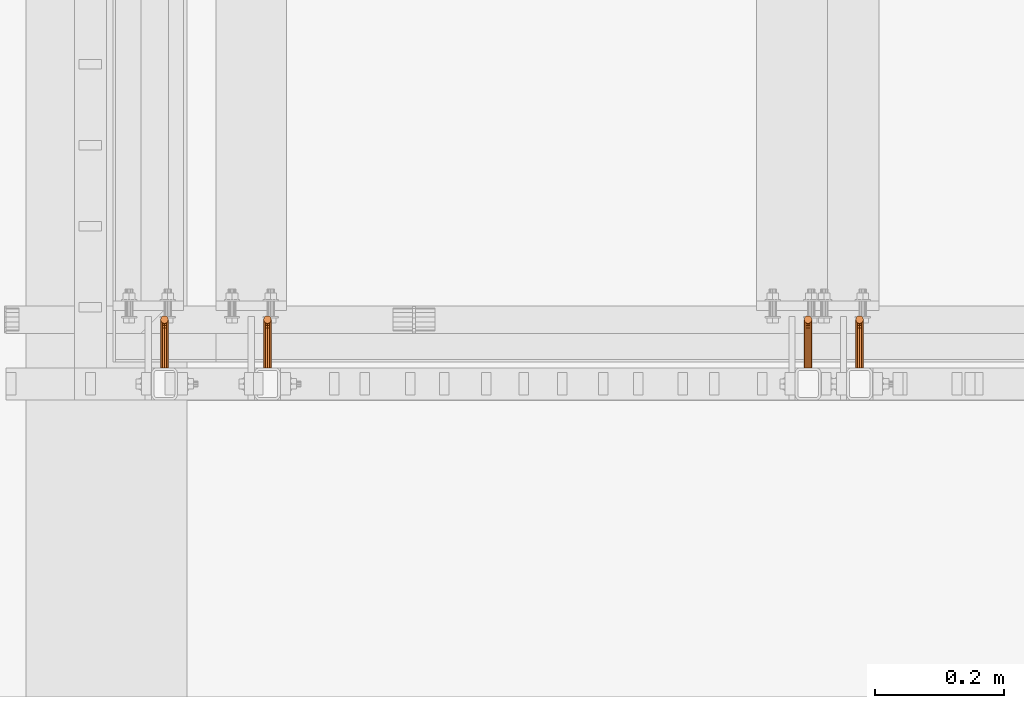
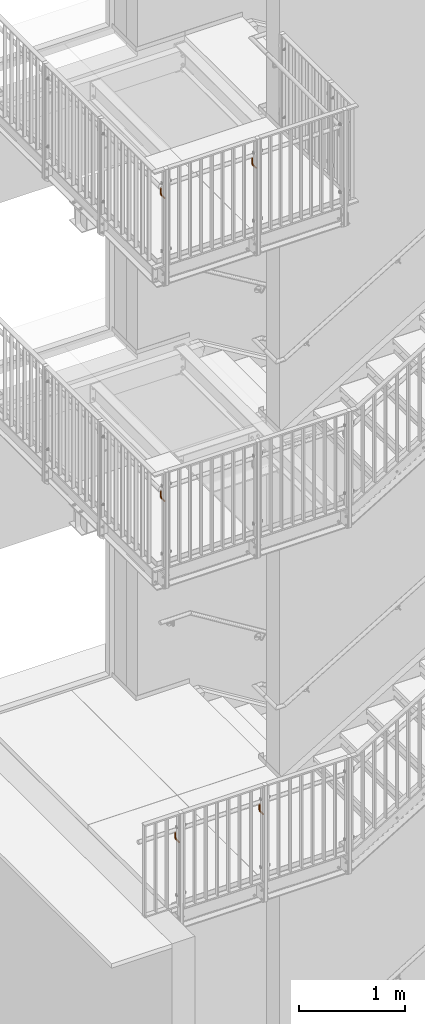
# One storey, part 370 of 410: 5 proxies.
"""IFC2X3 building model written with IfcOpenShell, lengths in millimetres."""

from ifc_helpers import new_model, entity, si_unit, converted_unit, origin_with_axes, place, context, project, spatial, faceted_brep, element, save


model = new_model("IFC2X3")

# Units and contexts
model_context = context("Model", 3, precision=1e-09, world=origin_with_axes())
ifc_project = project(units=[si_unit("LENGTHUNIT", "METRE", prefix="MILLI"), si_unit("AREAUNIT", "SQUARE_METRE"), si_unit("VOLUMEUNIT", "CUBIC_METRE"), converted_unit("PLANEANGLEUNIT", "DEGREE", entity("IfcPlaneAngleMeasure", 0.01745329), si_unit("PLANEANGLEUNIT", "RADIAN"), dimensions=[0, 0, 0, 0, 0, 0, 0])], contexts=[model_context])

# Site, building, storey
site_placement = place(None, origin_with_axes())
site = spatial("IfcSite", under=ifc_project, at=site_placement, Name="mKR Teilneubau & Sanierung BA1 - Ostfildern", CompositionType="ELEMENT")
building_placement = place(site_placement, origin_with_axes())
building = spatial("IfcBuilding", under=site, at=building_placement, Name="Struktur 1", CompositionType="ELEMENT")
storey_placement = place(building_placement, origin_with_axes())
storey = spatial("IfcBuildingStorey", under=building, at=storey_placement, Name="Default Storey", CompositionType="ELEMENT", Elevation=0.0)

# Proxies
proxy_1_placement = place(None, origin_with_axes())
element("IfcBuildingElementProxy", 1, at=proxy_1_placement, inside=storey, ObjectType="-", context=model_context, shape_type="Brep", body=[
    faceted_brep([(-3784.99853167, 15487.999999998, 4738.6), (-3784.99853167, 15430.999999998, 4738.6), (-3781.99853167, 15430.999999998, 4737.796152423), (-3781.99853167, 15487.999999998, 4737.796152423), (-3790.194684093, 15430.999999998, 4729.6), (-3787.99853167, 15430.999999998, 4727.403847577), (-3784.99853167, 15430.999999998, 4726.6), (-3781.99853167, 15430.999999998, 4727.403847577), (-3779.802379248, 15430.999999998, 4729.6), (-3778.99853167, 15430.999999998, 4732.6), (-3779.802379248, 15430.999999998, 4735.6), (-3787.99853167, 15430.999999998, 4737.796152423), (-3790.194684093, 15430.999999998, 4735.6), (-3790.99853167, 15430.999999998, 4732.6), (-3787.99853167, 15487.999999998, 4737.796152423), (-3781.99853167, 15492.899820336, 4738.770787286), (-3784.99853167, 15492.592201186, 4739.51344561), (-3779.802379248, 15487.999999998, 4735.6), (-3787.99853167, 15492.899820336, 4738.770787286), (-3784.99853167, 15496.485281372, 4742.114718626), (-3787.99853167, 15497.053687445, 4741.546312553), (-3781.99853167, 15497.053687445, 4741.546312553), (-3779.802379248, 15493.740251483, 4736.741807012), (-3790.194684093, 15487.999999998, 4735.6), (-3784.99853167, 15499.086554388, 4746.007798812), (-3787.99853167, 15499.829212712, 4745.700179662), (-3787.99853167, 15500.803847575, 4750.6), (-3787.99853167, 15500.803847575, 4807.6), (-3790.194684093, 15502.999999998, 4807.6), (-3790.194684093, 15502.999999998, 4750.6), (-3784.99853167, 15499.999999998, 4750.6), (-3784.99853167, 15499.999999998, 4807.6), (-3778.99853167, 15487.999999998, 4732.6), (-3790.194684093, 15501.858192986, 4744.859748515), (-3790.194684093, 15493.740251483, 4736.741807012), (-3790.194684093, 15498.606601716, 4739.993398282), (-3779.802379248, 15508.999999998, 4807.6), (-3781.99853167, 15511.196152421, 4807.6), (-3784.99853167, 15511.999999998, 4807.6), (-3787.99853167, 15511.196152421, 4807.6), (-3790.194684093, 15508.999999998, 4807.6), (-3790.99853167, 15505.999999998, 4807.6), (-3781.99853167, 15500.803847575, 4807.6), (-3779.802379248, 15502.999999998, 4807.6), (-3778.99853167, 15505.999999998, 4807.6), (-3781.99853167, 15499.829212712, 4745.700179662), (-3778.99853167, 15494.888301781, 4733.970168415), (-3779.802379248, 15498.606601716, 4739.993398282), (-3790.99853167, 15487.999999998, 4732.6), (-3790.99853167, 15505.999999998, 4750.6), (-3781.99853167, 15500.803847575, 4750.6), (-3779.802379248, 15487.999999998, 4729.6), (-3790.99853167, 15504.629831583, 4743.711698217), (-3790.99853167, 15494.888301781, 4733.970168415), (-3790.99853167, 15500.727922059, 4737.872077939), (-3779.802379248, 15501.858192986, 4744.859748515), (-3779.802379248, 15496.036352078, 4731.198529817), (-3778.99853167, 15500.727922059, 4737.872077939), (-3781.99853167, 15487.999999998, 4727.403847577), (-3784.99853167, 15487.999999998, 4726.6), (-3787.99853167, 15487.999999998, 4727.403847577), (-3790.194684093, 15487.999999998, 4729.6), (-3790.194684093, 15508.999999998, 4750.6), (-3779.802379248, 15502.999999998, 4750.6), (-3790.194684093, 15507.401470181, 4742.56364792), (-3790.194684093, 15496.036352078, 4731.198529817), (-3790.194684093, 15502.849242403, 4735.750757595), (-3778.99853167, 15504.629831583, 4743.711698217), (-3781.99853167, 15496.876783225, 4729.169549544), (-3779.802379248, 15502.849242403, 4735.750757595), (-3784.99853167, 15497.184402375, 4728.42689122), (-3787.99853167, 15496.876783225, 4729.169549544), (-3787.99853167, 15511.196152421, 4750.6), (-3778.99853167, 15505.999999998, 4750.6), (-3787.99853167, 15509.430450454, 4741.723216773), (-3787.99853167, 15504.402156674, 4734.197843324), (-3779.802379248, 15507.401470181, 4742.56364792), (-3781.99853167, 15504.402156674, 4734.197843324), (-3784.99853167, 15511.999999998, 4750.6), (-3784.99853167, 15504.970562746, 4733.629437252), (-3779.802379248, 15508.999999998, 4750.6), (-3784.99853167, 15510.173108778, 4741.415597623), (-3781.99853167, 15509.430450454, 4741.723216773), (-3781.99853167, 15511.196152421, 4750.6)], [[[0, 1, 2, 3]], [[4, 5, 6, 7, 8, 9, 10, 2, 1, 11, 12, 13]], [[1, 0, 14, 11]], [[0, 3, 15, 16]], [[3, 2, 10, 17]], [[16, 18, 14, 0]], [[19, 20, 18, 16]], [[16, 15, 21, 19]], [[3, 17, 22, 15]], [[11, 14, 23, 12]], [[20, 19, 24, 25]], [[26, 27, 28, 29]], [[27, 26, 30, 31]], [[17, 10, 9, 32]], [[26, 29, 33, 25]], [[18, 34, 23, 14]], [[20, 35, 34, 18]], [[25, 33, 35, 20]], [[36, 37, 38, 39, 40, 41, 28, 27, 31, 42, 43, 44]], [[25, 24, 30, 26]], [[19, 21, 45, 24]], [[17, 32, 46, 22]], [[15, 22, 47, 21]], [[12, 23, 48, 13]], [[29, 28, 41, 49]], [[31, 30, 50, 42]], [[32, 9, 8, 51]], [[29, 49, 52, 33]], [[34, 53, 48, 23]], [[35, 54, 53, 34]], [[33, 52, 54, 35]], [[24, 45, 50, 30]], [[21, 47, 55, 45]], [[32, 51, 56, 46]], [[22, 46, 57, 47]], [[7, 58, 51, 8]], [[6, 59, 58, 7]], [[5, 60, 59, 6]], [[4, 61, 60, 5]], [[13, 48, 61, 4]], [[49, 41, 40, 62]], [[42, 50, 63, 43]], [[49, 62, 64, 52]], [[53, 65, 61, 48]], [[54, 66, 65, 53]], [[52, 64, 66, 54]], [[45, 55, 63, 50]], [[47, 57, 67, 55]], [[51, 58, 68, 56]], [[46, 56, 69, 57]], [[58, 59, 70, 68]], [[59, 60, 71, 70]], [[60, 61, 65, 71]], [[62, 40, 39, 72]], [[43, 63, 73, 44]], [[62, 72, 74, 64]], [[66, 75, 71, 65]], [[64, 74, 75, 66]], [[55, 67, 73, 63]], [[57, 69, 76, 67]], [[56, 68, 77, 69]], [[72, 39, 38, 78]], [[68, 70, 79, 77]], [[70, 71, 75, 79]], [[44, 73, 80, 36]], [[72, 78, 81, 74]], [[74, 81, 79, 75]], [[67, 76, 80, 73]], [[69, 77, 82, 76]], [[78, 38, 37, 83]], [[77, 79, 81, 82]], [[36, 80, 83, 37]], [[78, 83, 82, 81]], [[76, 82, 83, 80]]]),
])
proxy_2_placement = place(None, origin_with_axes())
element("IfcBuildingElementProxy", 2, at=proxy_2_placement, inside=storey, ObjectType="-", context=model_context, shape_type="Brep", body=[
    faceted_brep([(-2704.99853167, 15487.999999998, 738.6), (-2704.99853167, 15430.999999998, 738.6), (-2701.99853167, 15430.999999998, 737.796152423), (-2701.99853167, 15487.999999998, 737.796152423), (-2710.194684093, 15430.999999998, 729.6), (-2707.99853167, 15430.999999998, 727.403847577), (-2704.99853167, 15430.999999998, 726.6), (-2701.99853167, 15430.999999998, 727.403847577), (-2699.802379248, 15430.999999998, 729.6), (-2698.99853167, 15430.999999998, 732.6), (-2699.802379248, 15430.999999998, 735.6), (-2707.99853167, 15430.999999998, 737.796152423), (-2710.194684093, 15430.999999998, 735.6), (-2710.99853167, 15430.999999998, 732.6), (-2707.99853167, 15487.999999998, 737.796152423), (-2701.99853167, 15492.899820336, 738.770787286), (-2704.99853167, 15492.592201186, 739.51344561), (-2699.802379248, 15487.999999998, 735.6), (-2707.99853167, 15492.899820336, 738.770787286), (-2704.99853167, 15496.485281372, 742.114718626), (-2707.99853167, 15497.053687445, 741.546312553), (-2701.99853167, 15497.053687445, 741.546312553), (-2699.802379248, 15493.740251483, 736.741807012), (-2710.194684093, 15487.999999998, 735.6), (-2704.99853167, 15499.086554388, 746.007798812), (-2707.99853167, 15499.829212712, 745.700179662), (-2707.99853167, 15500.803847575, 750.6), (-2707.99853167, 15500.803847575, 807.6), (-2710.194684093, 15502.999999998, 807.6), (-2710.194684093, 15502.999999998, 750.6), (-2704.99853167, 15499.999999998, 750.6), (-2704.99853167, 15499.999999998, 807.6), (-2698.99853167, 15487.999999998, 732.6), (-2710.194684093, 15501.858192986, 744.859748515), (-2710.194684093, 15493.740251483, 736.741807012), (-2710.194684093, 15498.606601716, 739.993398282), (-2699.802379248, 15508.999999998, 807.6), (-2701.99853167, 15511.196152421, 807.6), (-2704.99853167, 15511.999999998, 807.6), (-2707.99853167, 15511.196152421, 807.6), (-2710.194684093, 15508.999999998, 807.6), (-2710.99853167, 15505.999999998, 807.6), (-2701.99853167, 15500.803847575, 807.6), (-2699.802379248, 15502.999999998, 807.6), (-2698.99853167, 15505.999999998, 807.6), (-2701.99853167, 15499.829212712, 745.700179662), (-2698.99853167, 15494.888301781, 733.970168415), (-2699.802379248, 15498.606601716, 739.993398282), (-2710.99853167, 15487.999999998, 732.6), (-2710.99853167, 15505.999999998, 750.6), (-2701.99853167, 15500.803847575, 750.6), (-2699.802379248, 15487.999999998, 729.6), (-2710.99853167, 15504.629831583, 743.711698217), (-2710.99853167, 15494.888301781, 733.970168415), (-2710.99853167, 15500.727922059, 737.872077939), (-2699.802379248, 15501.858192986, 744.859748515), (-2699.802379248, 15496.036352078, 731.198529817), (-2698.99853167, 15500.727922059, 737.872077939), (-2701.99853167, 15487.999999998, 727.403847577), (-2704.99853167, 15487.999999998, 726.6), (-2707.99853167, 15487.999999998, 727.403847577), (-2710.194684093, 15487.999999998, 729.6), (-2710.194684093, 15508.999999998, 750.6), (-2699.802379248, 15502.999999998, 750.6), (-2710.194684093, 15507.401470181, 742.56364792), (-2710.194684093, 15496.036352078, 731.198529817), (-2710.194684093, 15502.849242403, 735.750757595), (-2698.99853167, 15504.629831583, 743.711698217), (-2701.99853167, 15496.876783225, 729.169549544), (-2699.802379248, 15502.849242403, 735.750757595), (-2704.99853167, 15497.184402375, 728.42689122), (-2707.99853167, 15496.876783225, 729.169549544), (-2707.99853167, 15511.196152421, 750.6), (-2698.99853167, 15505.999999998, 750.6), (-2707.99853167, 15509.430450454, 741.723216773), (-2707.99853167, 15504.402156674, 734.197843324), (-2699.802379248, 15507.401470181, 742.56364792), (-2701.99853167, 15504.402156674, 734.197843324), (-2704.99853167, 15511.999999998, 750.6), (-2704.99853167, 15504.970562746, 733.629437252), (-2699.802379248, 15508.999999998, 750.6), (-2704.99853167, 15510.173108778, 741.415597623), (-2701.99853167, 15509.430450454, 741.723216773), (-2701.99853167, 15511.196152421, 750.6)], [[[0, 1, 2, 3]], [[4, 5, 6, 7, 8, 9, 10, 2, 1, 11, 12, 13]], [[1, 0, 14, 11]], [[0, 3, 15, 16]], [[3, 2, 10, 17]], [[16, 18, 14, 0]], [[19, 20, 18, 16]], [[16, 15, 21, 19]], [[3, 17, 22, 15]], [[11, 14, 23, 12]], [[20, 19, 24, 25]], [[26, 27, 28, 29]], [[27, 26, 30, 31]], [[17, 10, 9, 32]], [[26, 29, 33, 25]], [[18, 34, 23, 14]], [[20, 35, 34, 18]], [[25, 33, 35, 20]], [[36, 37, 38, 39, 40, 41, 28, 27, 31, 42, 43, 44]], [[25, 24, 30, 26]], [[19, 21, 45, 24]], [[17, 32, 46, 22]], [[15, 22, 47, 21]], [[12, 23, 48, 13]], [[29, 28, 41, 49]], [[31, 30, 50, 42]], [[32, 9, 8, 51]], [[29, 49, 52, 33]], [[34, 53, 48, 23]], [[35, 54, 53, 34]], [[33, 52, 54, 35]], [[24, 45, 50, 30]], [[21, 47, 55, 45]], [[32, 51, 56, 46]], [[22, 46, 57, 47]], [[7, 58, 51, 8]], [[6, 59, 58, 7]], [[5, 60, 59, 6]], [[4, 61, 60, 5]], [[13, 48, 61, 4]], [[49, 41, 40, 62]], [[42, 50, 63, 43]], [[49, 62, 64, 52]], [[53, 65, 61, 48]], [[54, 66, 65, 53]], [[52, 64, 66, 54]], [[45, 55, 63, 50]], [[47, 57, 67, 55]], [[51, 58, 68, 56]], [[46, 56, 69, 57]], [[58, 59, 70, 68]], [[59, 60, 71, 70]], [[60, 61, 65, 71]], [[62, 40, 39, 72]], [[43, 63, 73, 44]], [[62, 72, 74, 64]], [[66, 75, 71, 65]], [[64, 74, 75, 66]], [[55, 67, 73, 63]], [[57, 69, 76, 67]], [[56, 68, 77, 69]], [[72, 39, 38, 78]], [[68, 70, 79, 77]], [[70, 71, 75, 79]], [[44, 73, 80, 36]], [[72, 78, 81, 74]], [[74, 81, 79, 75]], [[67, 76, 80, 73]], [[69, 77, 82, 76]], [[78, 38, 37, 83]], [[77, 79, 81, 82]], [[36, 80, 83, 37]], [[78, 83, 82, 81]], [[76, 82, 83, 80]]]),
])
proxy_3_placement = place(None, origin_with_axes())
element("IfcBuildingElementProxy", 3, at=proxy_3_placement, inside=storey, ObjectType="-", context=model_context, shape_type="Brep", body=[
    faceted_brep([(-3624.99853167, 15487.999999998, 738.6), (-3624.99853167, 15430.999999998, 738.6), (-3621.99853167, 15430.999999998, 737.796152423), (-3621.99853167, 15487.999999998, 737.796152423), (-3630.194684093, 15430.999999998, 729.6), (-3627.99853167, 15430.999999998, 727.403847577), (-3624.99853167, 15430.999999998, 726.6), (-3621.99853167, 15430.999999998, 727.403847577), (-3619.802379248, 15430.999999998, 729.6), (-3618.99853167, 15430.999999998, 732.6), (-3619.802379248, 15430.999999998, 735.6), (-3627.99853167, 15430.999999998, 737.796152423), (-3630.194684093, 15430.999999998, 735.6), (-3630.99853167, 15430.999999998, 732.6), (-3627.99853167, 15487.999999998, 737.796152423), (-3621.99853167, 15492.899820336, 738.770787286), (-3624.99853167, 15492.592201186, 739.51344561), (-3619.802379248, 15487.999999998, 735.6), (-3627.99853167, 15492.899820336, 738.770787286), (-3624.99853167, 15496.485281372, 742.114718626), (-3627.99853167, 15497.053687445, 741.546312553), (-3621.99853167, 15497.053687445, 741.546312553), (-3619.802379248, 15493.740251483, 736.741807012), (-3630.194684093, 15487.999999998, 735.6), (-3624.99853167, 15499.086554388, 746.007798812), (-3627.99853167, 15499.829212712, 745.700179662), (-3627.99853167, 15500.803847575, 750.6), (-3627.99853167, 15500.803847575, 807.6), (-3630.194684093, 15502.999999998, 807.6), (-3630.194684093, 15502.999999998, 750.6), (-3624.99853167, 15499.999999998, 750.6), (-3624.99853167, 15499.999999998, 807.6), (-3618.99853167, 15487.999999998, 732.6), (-3630.194684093, 15501.858192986, 744.859748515), (-3630.194684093, 15493.740251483, 736.741807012), (-3630.194684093, 15498.606601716, 739.993398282), (-3619.802379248, 15508.999999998, 807.6), (-3621.99853167, 15511.196152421, 807.6), (-3624.99853167, 15511.999999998, 807.6), (-3627.99853167, 15511.196152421, 807.6), (-3630.194684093, 15508.999999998, 807.6), (-3630.99853167, 15505.999999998, 807.6), (-3621.99853167, 15500.803847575, 807.6), (-3619.802379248, 15502.999999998, 807.6), (-3618.99853167, 15505.999999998, 807.6), (-3621.99853167, 15499.829212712, 745.700179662), (-3618.99853167, 15494.888301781, 733.970168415), (-3619.802379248, 15498.606601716, 739.993398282), (-3630.99853167, 15487.999999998, 732.6), (-3630.99853167, 15505.999999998, 750.6), (-3621.99853167, 15500.803847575, 750.6), (-3619.802379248, 15487.999999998, 729.6), (-3630.99853167, 15504.629831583, 743.711698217), (-3630.99853167, 15494.888301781, 733.970168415), (-3630.99853167, 15500.727922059, 737.872077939), (-3619.802379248, 15501.858192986, 744.859748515), (-3619.802379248, 15496.036352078, 731.198529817), (-3618.99853167, 15500.727922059, 737.872077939), (-3621.99853167, 15487.999999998, 727.403847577), (-3624.99853167, 15487.999999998, 726.6), (-3627.99853167, 15487.999999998, 727.403847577), (-3630.194684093, 15487.999999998, 729.6), (-3630.194684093, 15508.999999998, 750.6), (-3619.802379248, 15502.999999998, 750.6), (-3630.194684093, 15507.401470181, 742.56364792), (-3630.194684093, 15496.036352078, 731.198529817), (-3630.194684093, 15502.849242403, 735.750757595), (-3618.99853167, 15504.629831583, 743.711698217), (-3621.99853167, 15496.876783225, 729.169549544), (-3619.802379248, 15502.849242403, 735.750757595), (-3624.99853167, 15497.184402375, 728.42689122), (-3627.99853167, 15496.876783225, 729.169549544), (-3627.99853167, 15511.196152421, 750.6), (-3618.99853167, 15505.999999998, 750.6), (-3627.99853167, 15509.430450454, 741.723216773), (-3627.99853167, 15504.402156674, 734.197843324), (-3619.802379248, 15507.401470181, 742.56364792), (-3621.99853167, 15504.402156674, 734.197843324), (-3624.99853167, 15511.999999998, 750.6), (-3624.99853167, 15504.970562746, 733.629437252), (-3619.802379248, 15508.999999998, 750.6), (-3624.99853167, 15510.173108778, 741.415597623), (-3621.99853167, 15509.430450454, 741.723216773), (-3621.99853167, 15511.196152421, 750.6)], [[[0, 1, 2, 3]], [[4, 5, 6, 7, 8, 9, 10, 2, 1, 11, 12, 13]], [[1, 0, 14, 11]], [[0, 3, 15, 16]], [[3, 2, 10, 17]], [[16, 18, 14, 0]], [[19, 20, 18, 16]], [[16, 15, 21, 19]], [[3, 17, 22, 15]], [[11, 14, 23, 12]], [[20, 19, 24, 25]], [[26, 27, 28, 29]], [[27, 26, 30, 31]], [[17, 10, 9, 32]], [[26, 29, 33, 25]], [[18, 34, 23, 14]], [[20, 35, 34, 18]], [[25, 33, 35, 20]], [[36, 37, 38, 39, 40, 41, 28, 27, 31, 42, 43, 44]], [[25, 24, 30, 26]], [[19, 21, 45, 24]], [[17, 32, 46, 22]], [[15, 22, 47, 21]], [[12, 23, 48, 13]], [[29, 28, 41, 49]], [[31, 30, 50, 42]], [[32, 9, 8, 51]], [[29, 49, 52, 33]], [[34, 53, 48, 23]], [[35, 54, 53, 34]], [[33, 52, 54, 35]], [[24, 45, 50, 30]], [[21, 47, 55, 45]], [[32, 51, 56, 46]], [[22, 46, 57, 47]], [[7, 58, 51, 8]], [[6, 59, 58, 7]], [[5, 60, 59, 6]], [[4, 61, 60, 5]], [[13, 48, 61, 4]], [[49, 41, 40, 62]], [[42, 50, 63, 43]], [[49, 62, 64, 52]], [[53, 65, 61, 48]], [[54, 66, 65, 53]], [[52, 64, 66, 54]], [[45, 55, 63, 50]], [[47, 57, 67, 55]], [[51, 58, 68, 56]], [[46, 56, 69, 57]], [[58, 59, 70, 68]], [[59, 60, 71, 70]], [[60, 61, 65, 71]], [[62, 40, 39, 72]], [[43, 63, 73, 44]], [[62, 72, 74, 64]], [[66, 75, 71, 65]], [[64, 74, 75, 66]], [[55, 67, 73, 63]], [[57, 69, 76, 67]], [[56, 68, 77, 69]], [[72, 39, 38, 78]], [[68, 70, 79, 77]], [[70, 71, 75, 79]], [[44, 73, 80, 36]], [[72, 78, 81, 74]], [[74, 81, 79, 75]], [[67, 76, 80, 73]], [[69, 77, 82, 76]], [[78, 38, 37, 83]], [[77, 79, 81, 82]], [[36, 80, 83, 37]], [[78, 83, 82, 81]], [[76, 82, 83, 80]]]),
])
proxy_4_placement = place(None, origin_with_axes())
element("IfcBuildingElementProxy", 4, at=proxy_4_placement, inside=storey, ObjectType="-", context=model_context, shape_type="Brep", body=[
    faceted_brep([(-2784.99853167, 15487.999999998, 8238.6), (-2784.99853167, 15430.999999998, 8238.6), (-2781.99853167, 15430.999999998, 8237.796152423), (-2781.99853167, 15487.999999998, 8237.796152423), (-2790.194684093, 15430.999999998, 8229.6), (-2787.99853167, 15430.999999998, 8227.403847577), (-2784.99853167, 15430.999999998, 8226.6), (-2781.99853167, 15430.999999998, 8227.403847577), (-2779.802379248, 15430.999999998, 8229.6), (-2778.99853167, 15430.999999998, 8232.6), (-2779.802379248, 15430.999999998, 8235.6), (-2787.99853167, 15430.999999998, 8237.796152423), (-2790.194684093, 15430.999999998, 8235.6), (-2790.99853167, 15430.999999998, 8232.6), (-2787.99853167, 15487.999999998, 8237.796152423), (-2781.99853167, 15492.899820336, 8238.770787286), (-2784.99853167, 15492.592201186, 8239.51344561), (-2779.802379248, 15487.999999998, 8235.6), (-2787.99853167, 15492.899820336, 8238.770787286), (-2784.99853167, 15496.485281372, 8242.114718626), (-2787.99853167, 15497.053687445, 8241.546312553), (-2781.99853167, 15497.053687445, 8241.546312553), (-2779.802379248, 15493.740251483, 8236.741807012), (-2790.194684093, 15487.999999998, 8235.6), (-2784.99853167, 15499.086554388, 8246.007798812), (-2787.99853167, 15499.829212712, 8245.700179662), (-2787.99853167, 15500.803847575, 8250.6), (-2787.99853167, 15500.803847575, 8307.6), (-2790.194684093, 15502.999999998, 8307.6), (-2790.194684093, 15502.999999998, 8250.6), (-2784.99853167, 15499.999999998, 8250.6), (-2784.99853167, 15499.999999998, 8307.6), (-2778.99853167, 15487.999999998, 8232.6), (-2790.194684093, 15501.858192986, 8244.859748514), (-2790.194684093, 15493.740251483, 8236.741807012), (-2790.194684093, 15498.606601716, 8239.993398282), (-2779.802379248, 15508.999999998, 8307.6), (-2781.99853167, 15511.196152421, 8307.6), (-2784.99853167, 15511.999999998, 8307.6), (-2787.99853167, 15511.196152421, 8307.6), (-2790.194684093, 15508.999999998, 8307.6), (-2790.99853167, 15505.999999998, 8307.6), (-2781.99853167, 15500.803847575, 8307.6), (-2779.802379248, 15502.999999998, 8307.6), (-2778.99853167, 15505.999999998, 8307.6), (-2781.99853167, 15499.829212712, 8245.700179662), (-2778.99853167, 15494.888301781, 8233.970168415), (-2779.802379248, 15498.606601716, 8239.993398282), (-2790.99853167, 15487.999999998, 8232.6), (-2790.99853167, 15505.999999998, 8250.6), (-2781.99853167, 15500.803847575, 8250.6), (-2779.802379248, 15487.999999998, 8229.6), (-2790.99853167, 15504.629831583, 8243.711698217), (-2790.99853167, 15494.888301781, 8233.970168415), (-2790.99853167, 15500.727922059, 8237.872077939), (-2779.802379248, 15501.858192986, 8244.859748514), (-2779.802379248, 15496.036352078, 8231.198529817), (-2778.99853167, 15500.727922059, 8237.872077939), (-2781.99853167, 15487.999999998, 8227.403847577), (-2784.99853167, 15487.999999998, 8226.6), (-2787.99853167, 15487.999999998, 8227.403847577), (-2790.194684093, 15487.999999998, 8229.6), (-2790.194684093, 15508.999999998, 8250.6), (-2779.802379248, 15502.999999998, 8250.6), (-2790.194684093, 15507.401470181, 8242.56364792), (-2790.194684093, 15496.036352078, 8231.198529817), (-2790.194684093, 15502.849242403, 8235.750757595), (-2778.99853167, 15504.629831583, 8243.711698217), (-2781.99853167, 15496.876783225, 8229.169549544), (-2779.802379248, 15502.849242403, 8235.750757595), (-2784.99853167, 15497.184402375, 8228.42689122), (-2787.99853167, 15496.876783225, 8229.169549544), (-2787.99853167, 15511.196152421, 8250.6), (-2778.99853167, 15505.999999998, 8250.6), (-2787.99853167, 15509.430450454, 8241.723216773), (-2787.99853167, 15504.402156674, 8234.197843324), (-2779.802379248, 15507.401470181, 8242.56364792), (-2781.99853167, 15504.402156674, 8234.197843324), (-2784.99853167, 15511.999999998, 8250.6), (-2784.99853167, 15504.970562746, 8233.629437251), (-2779.802379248, 15508.999999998, 8250.6), (-2784.99853167, 15510.173108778, 8241.415597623), (-2781.99853167, 15509.430450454, 8241.723216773), (-2781.99853167, 15511.196152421, 8250.6)], [[[0, 1, 2, 3]], [[4, 5, 6, 7, 8, 9, 10, 2, 1, 11, 12, 13]], [[1, 0, 14, 11]], [[0, 3, 15, 16]], [[3, 2, 10, 17]], [[16, 18, 14, 0]], [[19, 20, 18, 16]], [[16, 15, 21, 19]], [[3, 17, 22, 15]], [[11, 14, 23, 12]], [[20, 19, 24, 25]], [[26, 27, 28, 29]], [[27, 26, 30, 31]], [[17, 10, 9, 32]], [[26, 29, 33, 25]], [[18, 34, 23, 14]], [[20, 35, 34, 18]], [[25, 33, 35, 20]], [[36, 37, 38, 39, 40, 41, 28, 27, 31, 42, 43, 44]], [[25, 24, 30, 26]], [[19, 21, 45, 24]], [[17, 32, 46, 22]], [[15, 22, 47, 21]], [[12, 23, 48, 13]], [[29, 28, 41, 49]], [[31, 30, 50, 42]], [[32, 9, 8, 51]], [[29, 49, 52, 33]], [[34, 53, 48, 23]], [[35, 54, 53, 34]], [[33, 52, 54, 35]], [[24, 45, 50, 30]], [[21, 47, 55, 45]], [[32, 51, 56, 46]], [[22, 46, 57, 47]], [[7, 58, 51, 8]], [[6, 59, 58, 7]], [[5, 60, 59, 6]], [[4, 61, 60, 5]], [[13, 48, 61, 4]], [[49, 41, 40, 62]], [[42, 50, 63, 43]], [[49, 62, 64, 52]], [[53, 65, 61, 48]], [[54, 66, 65, 53]], [[52, 64, 66, 54]], [[45, 55, 63, 50]], [[47, 57, 67, 55]], [[51, 58, 68, 56]], [[46, 56, 69, 57]], [[58, 59, 70, 68]], [[59, 60, 71, 70]], [[60, 61, 65, 71]], [[62, 40, 39, 72]], [[43, 63, 73, 44]], [[62, 72, 74, 64]], [[66, 75, 71, 65]], [[64, 74, 75, 66]], [[55, 67, 73, 63]], [[57, 69, 76, 67]], [[56, 68, 77, 69]], [[72, 39, 38, 78]], [[68, 70, 79, 77]], [[70, 71, 75, 79]], [[44, 73, 80, 36]], [[72, 78, 81, 74]], [[74, 81, 79, 75]], [[67, 76, 80, 73]], [[69, 77, 82, 76]], [[78, 38, 37, 83]], [[77, 79, 81, 82]], [[36, 80, 83, 37]], [[78, 83, 82, 81]], [[76, 82, 83, 80]]]),
])
proxy_5_placement = place(None, origin_with_axes())
element("IfcBuildingElementProxy", 5, at=proxy_5_placement, inside=storey, ObjectType="-", context=model_context, shape_type="Brep", body=[
    faceted_brep([(-3784.99853167, 15487.999999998, 8238.6), (-3784.99853167, 15430.999999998, 8238.6), (-3781.99853167, 15430.999999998, 8237.796152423), (-3781.99853167, 15487.999999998, 8237.796152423), (-3790.194684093, 15430.999999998, 8229.6), (-3787.99853167, 15430.999999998, 8227.403847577), (-3784.99853167, 15430.999999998, 8226.6), (-3781.99853167, 15430.999999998, 8227.403847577), (-3779.802379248, 15430.999999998, 8229.6), (-3778.99853167, 15430.999999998, 8232.6), (-3779.802379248, 15430.999999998, 8235.6), (-3787.99853167, 15430.999999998, 8237.796152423), (-3790.194684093, 15430.999999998, 8235.6), (-3790.99853167, 15430.999999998, 8232.6), (-3787.99853167, 15487.999999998, 8237.796152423), (-3781.99853167, 15492.899820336, 8238.770787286), (-3784.99853167, 15492.592201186, 8239.51344561), (-3779.802379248, 15487.999999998, 8235.6), (-3787.99853167, 15492.899820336, 8238.770787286), (-3784.99853167, 15496.485281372, 8242.114718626), (-3787.99853167, 15497.053687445, 8241.546312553), (-3781.99853167, 15497.053687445, 8241.546312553), (-3779.802379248, 15493.740251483, 8236.741807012), (-3790.194684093, 15487.999999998, 8235.6), (-3784.99853167, 15499.086554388, 8246.007798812), (-3787.99853167, 15499.829212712, 8245.700179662), (-3787.99853167, 15500.803847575, 8250.6), (-3787.99853167, 15500.803847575, 8307.6), (-3790.194684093, 15502.999999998, 8307.6), (-3790.194684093, 15502.999999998, 8250.6), (-3784.99853167, 15499.999999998, 8250.6), (-3784.99853167, 15499.999999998, 8307.6), (-3778.99853167, 15487.999999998, 8232.6), (-3790.194684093, 15501.858192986, 8244.859748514), (-3790.194684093, 15493.740251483, 8236.741807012), (-3790.194684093, 15498.606601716, 8239.993398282), (-3779.802379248, 15508.999999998, 8307.6), (-3781.99853167, 15511.196152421, 8307.6), (-3784.99853167, 15511.999999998, 8307.6), (-3787.99853167, 15511.196152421, 8307.6), (-3790.194684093, 15508.999999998, 8307.6), (-3790.99853167, 15505.999999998, 8307.6), (-3781.99853167, 15500.803847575, 8307.6), (-3779.802379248, 15502.999999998, 8307.6), (-3778.99853167, 15505.999999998, 8307.6), (-3781.99853167, 15499.829212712, 8245.700179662), (-3778.99853167, 15494.888301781, 8233.970168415), (-3779.802379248, 15498.606601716, 8239.993398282), (-3790.99853167, 15487.999999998, 8232.6), (-3790.99853167, 15505.999999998, 8250.6), (-3781.99853167, 15500.803847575, 8250.6), (-3779.802379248, 15487.999999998, 8229.6), (-3790.99853167, 15504.629831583, 8243.711698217), (-3790.99853167, 15494.888301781, 8233.970168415), (-3790.99853167, 15500.727922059, 8237.872077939), (-3779.802379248, 15501.858192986, 8244.859748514), (-3779.802379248, 15496.036352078, 8231.198529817), (-3778.99853167, 15500.727922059, 8237.872077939), (-3781.99853167, 15487.999999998, 8227.403847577), (-3784.99853167, 15487.999999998, 8226.6), (-3787.99853167, 15487.999999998, 8227.403847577), (-3790.194684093, 15487.999999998, 8229.6), (-3790.194684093, 15508.999999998, 8250.6), (-3779.802379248, 15502.999999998, 8250.6), (-3790.194684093, 15507.401470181, 8242.56364792), (-3790.194684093, 15496.036352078, 8231.198529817), (-3790.194684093, 15502.849242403, 8235.750757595), (-3778.99853167, 15504.629831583, 8243.711698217), (-3781.99853167, 15496.876783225, 8229.169549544), (-3779.802379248, 15502.849242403, 8235.750757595), (-3784.99853167, 15497.184402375, 8228.42689122), (-3787.99853167, 15496.876783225, 8229.169549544), (-3787.99853167, 15511.196152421, 8250.6), (-3778.99853167, 15505.999999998, 8250.6), (-3787.99853167, 15509.430450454, 8241.723216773), (-3787.99853167, 15504.402156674, 8234.197843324), (-3779.802379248, 15507.401470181, 8242.56364792), (-3781.99853167, 15504.402156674, 8234.197843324), (-3784.99853167, 15511.999999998, 8250.6), (-3784.99853167, 15504.970562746, 8233.629437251), (-3779.802379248, 15508.999999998, 8250.6), (-3784.99853167, 15510.173108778, 8241.415597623), (-3781.99853167, 15509.430450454, 8241.723216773), (-3781.99853167, 15511.196152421, 8250.6)], [[[0, 1, 2, 3]], [[4, 5, 6, 7, 8, 9, 10, 2, 1, 11, 12, 13]], [[1, 0, 14, 11]], [[0, 3, 15, 16]], [[3, 2, 10, 17]], [[16, 18, 14, 0]], [[19, 20, 18, 16]], [[16, 15, 21, 19]], [[3, 17, 22, 15]], [[11, 14, 23, 12]], [[20, 19, 24, 25]], [[26, 27, 28, 29]], [[27, 26, 30, 31]], [[17, 10, 9, 32]], [[26, 29, 33, 25]], [[18, 34, 23, 14]], [[20, 35, 34, 18]], [[25, 33, 35, 20]], [[36, 37, 38, 39, 40, 41, 28, 27, 31, 42, 43, 44]], [[25, 24, 30, 26]], [[19, 21, 45, 24]], [[17, 32, 46, 22]], [[15, 22, 47, 21]], [[12, 23, 48, 13]], [[29, 28, 41, 49]], [[31, 30, 50, 42]], [[32, 9, 8, 51]], [[29, 49, 52, 33]], [[34, 53, 48, 23]], [[35, 54, 53, 34]], [[33, 52, 54, 35]], [[24, 45, 50, 30]], [[21, 47, 55, 45]], [[32, 51, 56, 46]], [[22, 46, 57, 47]], [[7, 58, 51, 8]], [[6, 59, 58, 7]], [[5, 60, 59, 6]], [[4, 61, 60, 5]], [[13, 48, 61, 4]], [[49, 41, 40, 62]], [[42, 50, 63, 43]], [[49, 62, 64, 52]], [[53, 65, 61, 48]], [[54, 66, 65, 53]], [[52, 64, 66, 54]], [[45, 55, 63, 50]], [[47, 57, 67, 55]], [[51, 58, 68, 56]], [[46, 56, 69, 57]], [[58, 59, 70, 68]], [[59, 60, 71, 70]], [[60, 61, 65, 71]], [[62, 40, 39, 72]], [[43, 63, 73, 44]], [[62, 72, 74, 64]], [[66, 75, 71, 65]], [[64, 74, 75, 66]], [[55, 67, 73, 63]], [[57, 69, 76, 67]], [[56, 68, 77, 69]], [[72, 39, 38, 78]], [[68, 70, 79, 77]], [[70, 71, 75, 79]], [[44, 73, 80, 36]], [[72, 78, 81, 74]], [[74, 81, 79, 75]], [[67, 76, 80, 73]], [[69, 77, 82, 76]], [[78, 38, 37, 83]], [[77, 79, 81, 82]], [[36, 80, 83, 37]], [[78, 83, 82, 81]], [[76, 82, 83, 80]]]),
])

save(model, "model.ifc")
